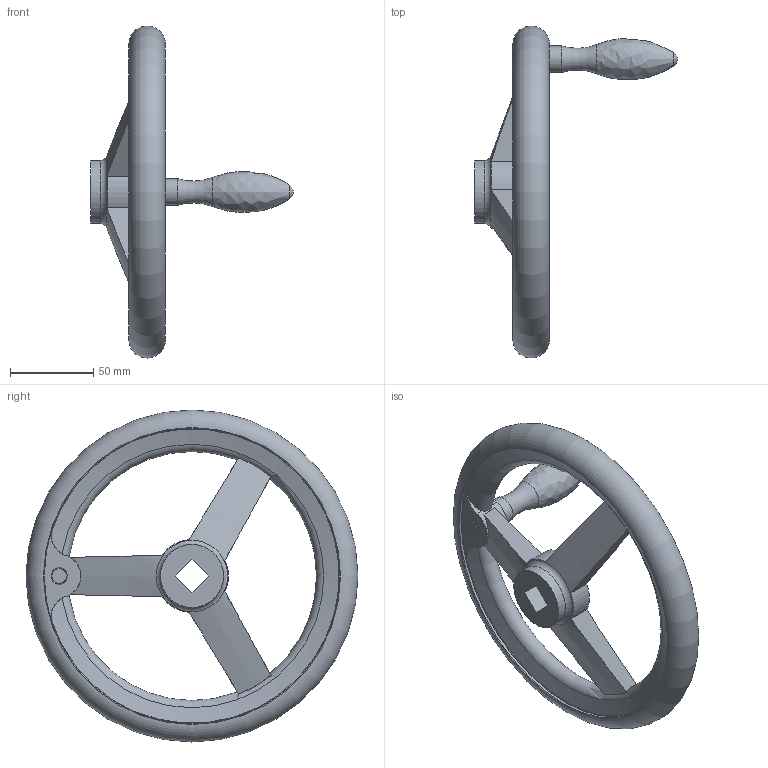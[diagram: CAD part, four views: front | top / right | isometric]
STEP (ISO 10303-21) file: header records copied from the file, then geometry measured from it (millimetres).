
FILE_DESCRIPTION( ( 'STEP AP203' ), '1' );
FILE_NAME( 'C:/Temp/Ganter_Step_05_03_2020/data/1_3/din_950/din_950_v/din_950_v_f/Handwheel DIN 950-AL-200-V14-F.stp', '2020-03-05T10:31:47', ( 'License CC BY-ND 4.0' ), ( 'CADENAS' ), ' ', 'PARTsolutions', ' ' );
FILE_SCHEMA( ( 'CONFIG_CONTROL_DESIGN' ) );
Length unit declared in the file: millimetre
Products named in the file (1): _Handwheel DIN 950-AL-200-V14-F
Bounding box: 122 x 199.99 x 199.99 mm (x, y, z)
Volume: 299667.1 mm3; surface area: 63591.9 mm2
Topology: 1 solids, 1 shells, 51 faces, 142 edges, 91 vertices
Faces by surface type: torus 15, plane 15, cylinder 13, cone 6, sphere 1, bspline 1
Full cylindrical faces by diameter (mm): 16 x1, 38 x2, 178 x2
Entity records: 1966 total; most frequent: CARTESIAN_POINT 774, ORIENTED_EDGE 230, DIRECTION 220, EDGE_CURVE 115, AXIS2_PLACEMENT_3D 98, VERTEX_POINT 85, EDGE_LOOP 76, FACE_OUTER_BOUND 65
